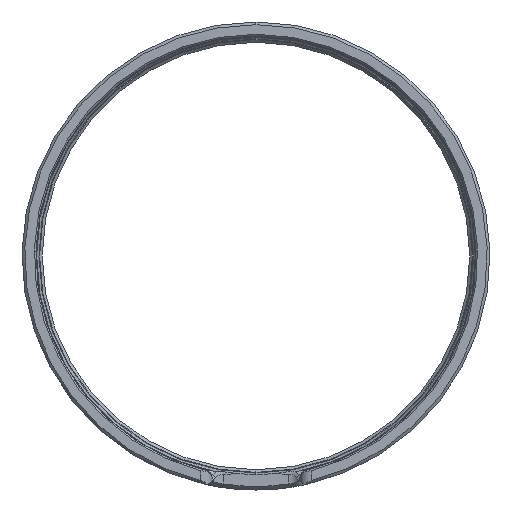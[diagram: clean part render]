
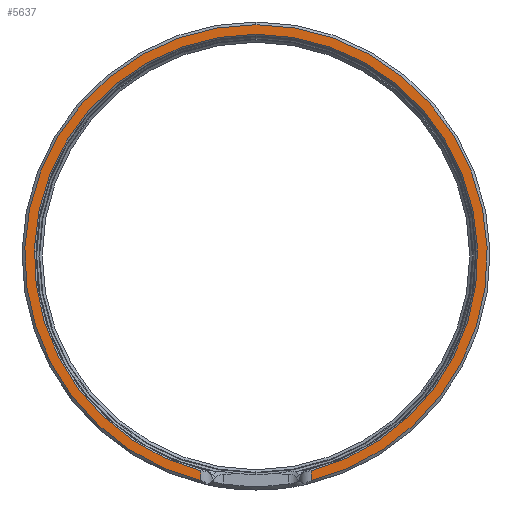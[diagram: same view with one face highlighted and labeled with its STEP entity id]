
A CAD part, left-side view. The second image highlights one B-rep face of the part: STEP entity #5637.
In plain terms, the highlighted planar face has unit normal (-1, 0, 0).
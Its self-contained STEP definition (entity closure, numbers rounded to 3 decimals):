
#46 = VERTEX_POINT ( 'NONE', #4049 ) ;
#83 = DIRECTION ( 'NONE',  ( -1., 0., 0. ) ) ;
#289 = CARTESIAN_POINT ( 'NONE',  ( -400., 10.2, -43.25 ) ) ;
#508 = DIRECTION ( 'NONE',  ( -1., 0., 0. ) ) ;
#661 = EDGE_CURVE ( 'NONE', #46, #4390, #2661, .T. ) ;
#944 = DIRECTION ( 'NONE',  ( 0., 0., -1. ) ) ;
#1000 = CARTESIAN_POINT ( 'NONE',  ( -400., 0., 0. ) ) ;
#1270 = ORIENTED_EDGE ( 'NONE', *, *, #2993, .F. ) ;
#1467 = PLANE ( 'NONE',  #3455 ) ;
#1482 = EDGE_CURVE ( 'NONE', #5485, #2693, #3966, .T. ) ;
#1557 = VERTEX_POINT ( 'NONE', #1959 ) ;
#1655 = AXIS2_PLACEMENT_3D ( 'NONE', #4932, #4820, #3151 ) ;
#1762 = VECTOR ( 'NONE', #3715, 1000. ) ;
#1809 = CARTESIAN_POINT ( 'NONE',  ( -400., 0., 0. ) ) ;
#1959 = CARTESIAN_POINT ( 'NONE',  ( -400., 10.2, -41.515 ) ) ;
#2145 = ORIENTED_EDGE ( 'NONE', *, *, #5601, .T. ) ;
#2150 = ORIENTED_EDGE ( 'NONE', *, *, #661, .T. ) ;
#2273 = FACE_OUTER_BOUND ( 'NONE', #3440, .T. ) ;
#2316 = AXIS2_PLACEMENT_3D ( 'NONE', #1000, #508, #3716 ) ;
#2425 = LINE ( 'NONE', #289, #1762 ) ;
#2481 = AXIS2_PLACEMENT_3D ( 'NONE', #1809, #3237, #4899 ) ;
#2661 = CIRCLE ( 'NONE', #2481, 42.75 ) ;
#2693 = VERTEX_POINT ( 'NONE', #5643 ) ;
#2880 = LINE ( 'NONE', #4303, #2983 ) ;
#2983 = VECTOR ( 'NONE', #5635, 1000. ) ;
#2993 = EDGE_CURVE ( 'NONE', #46, #5485, #2880, .T. ) ;
#3143 = ORIENTED_EDGE ( 'NONE', *, *, #1482, .F. ) ;
#3151 = DIRECTION ( 'NONE',  ( 0., 0., 1. ) ) ;
#3222 = EDGE_CURVE ( 'NONE', #1557, #2693, #2425, .T. ) ;
#3237 = DIRECTION ( 'NONE',  ( -1., 0., 0. ) ) ;
#3440 = EDGE_LOOP ( 'NONE', ( #1270, #2150, #2145, #4325, #3143 ) ) ;
#3455 = AXIS2_PLACEMENT_3D ( 'NONE', #4939, #83, #944 ) ;
#3693 = CARTESIAN_POINT ( 'NONE',  ( -400., -10.2, -39.685 ) ) ;
#3715 = DIRECTION ( 'NONE',  ( 0., 0., 1. ) ) ;
#3716 = DIRECTION ( 'NONE',  ( 0., 0., 1. ) ) ;
#3963 = CARTESIAN_POINT ( 'NONE',  ( -400., 0., 42.75 ) ) ;
#3966 = CIRCLE ( 'NONE', #1655, 40.975 ) ;
#4049 = CARTESIAN_POINT ( 'NONE',  ( -400., -10.2, -41.515 ) ) ;
#4303 = CARTESIAN_POINT ( 'NONE',  ( -400., -10.2, -43.25 ) ) ;
#4325 = ORIENTED_EDGE ( 'NONE', *, *, #3222, .T. ) ;
#4390 = VERTEX_POINT ( 'NONE', #3963 ) ;
#4558 = CIRCLE ( 'NONE', #2316, 42.75 ) ;
#4820 = DIRECTION ( 'NONE',  ( -1., 0., 0. ) ) ;
#4899 = DIRECTION ( 'NONE',  ( 0., 0., 1. ) ) ;
#4932 = CARTESIAN_POINT ( 'NONE',  ( -400., 0., 0. ) ) ;
#4939 = CARTESIAN_POINT ( 'NONE',  ( -400., 0., 0. ) ) ;
#5485 = VERTEX_POINT ( 'NONE', #3693 ) ;
#5601 = EDGE_CURVE ( 'NONE', #4390, #1557, #4558, .T. ) ;
#5635 = DIRECTION ( 'NONE',  ( 0., 0., 1. ) ) ;
#5637 = ADVANCED_FACE ( 'NONE', ( #2273 ), #1467, .T. ) ;
#5643 = CARTESIAN_POINT ( 'NONE',  ( -400., 10.2, -39.685 ) ) ;
